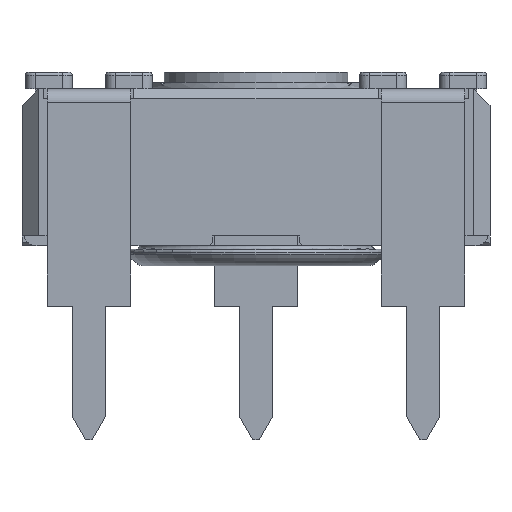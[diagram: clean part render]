
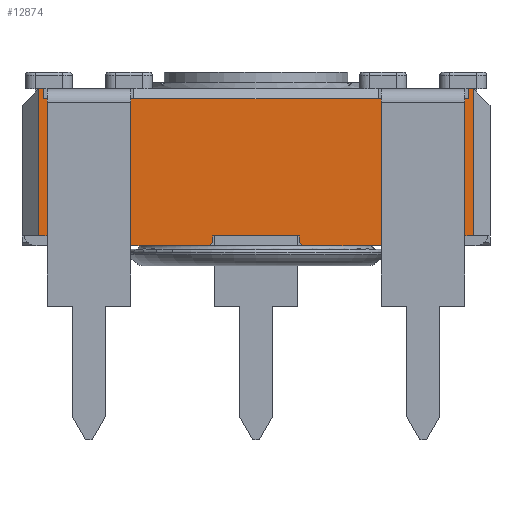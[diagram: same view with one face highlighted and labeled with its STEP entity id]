
A CAD part, front view. The second image highlights one B-rep face of the part: STEP entity #12874.
In plain terms, the highlighted planar face has unit normal (0, -1, 0).
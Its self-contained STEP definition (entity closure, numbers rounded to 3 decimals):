
#415=PLANE('',#13733);
#1009=FACE_OUTER_BOUND('',#1683,.T.);
#1683=EDGE_LOOP('',(#10426,#10427,#10428,#10429,#10430,#10431,#10432,#10433,
#10434,#10435,#10436,#10437,#10438,#10439,#10440,#10441,#10442,#10443,#10444,
#10445,#10446,#10447,#10448,#10449,#10450));
#2171=LINE('',#18132,#3656);
#2179=LINE('',#18152,#3664);
#2203=LINE('',#18199,#3688);
#2204=LINE('',#18201,#3689);
#2209=LINE('',#18212,#3694);
#2233=LINE('',#18259,#3718);
#2421=LINE('',#18814,#3906);
#2434=LINE('',#18838,#3919);
#2584=LINE('',#19393,#4069);
#2789=LINE('',#19916,#4274);
#2794=LINE('',#19926,#4279);
#2799=LINE('',#19936,#4284);
#2814=LINE('',#19962,#4299);
#2922=LINE('',#20280,#4407);
#2930=LINE('',#20298,#4415);
#2936=LINE('',#20306,#4421);
#2937=LINE('',#20309,#4422);
#2938=LINE('',#20311,#4423);
#2939=LINE('',#20313,#4424);
#2940=LINE('',#20314,#4425);
#2941=LINE('',#20315,#4426);
#2942=LINE('',#20316,#4427);
#2943=LINE('',#20317,#4428);
#2944=LINE('',#20318,#4429);
#2945=LINE('',#20319,#4430);
#3656=VECTOR('',#14515,10.);
#3664=VECTOR('',#14537,10.);
#3688=VECTOR('',#14563,10.);
#3689=VECTOR('',#14566,10.);
#3694=VECTOR('',#14581,10.);
#3718=VECTOR('',#14607,10.);
#3906=VECTOR('',#15169,10.);
#3919=VECTOR('',#15196,10.);
#4069=VECTOR('',#15574,10.);
#4274=VECTOR('',#15921,10.);
#4279=VECTOR('',#15926,10.);
#4284=VECTOR('',#15931,10.);
#4299=VECTOR('',#15948,10.);
#4407=VECTOR('',#16204,10.);
#4415=VECTOR('',#16216,10.);
#4421=VECTOR('',#16226,10.);
#4422=VECTOR('',#16229,10.);
#4423=VECTOR('',#16230,10.);
#4424=VECTOR('',#16231,10.);
#4425=VECTOR('',#16232,10.);
#4426=VECTOR('',#16233,10.);
#4427=VECTOR('',#16234,10.);
#4428=VECTOR('',#16235,10.);
#4429=VECTOR('',#16236,10.);
#4430=VECTOR('',#16237,10.);
#5380=VERTEX_POINT('',#17985);
#5386=VERTEX_POINT('',#18002);
#5396=VERTEX_POINT('',#18024);
#5444=VERTEX_POINT('',#18131);
#5449=VERTEX_POINT('',#18151);
#5471=VERTEX_POINT('',#18197);
#5472=VERTEX_POINT('',#18211);
#5494=VERTEX_POINT('',#18257);
#5673=VERTEX_POINT('',#18811);
#5674=VERTEX_POINT('',#18813);
#5677=VERTEX_POINT('',#18835);
#5678=VERTEX_POINT('',#18837);
#5812=VERTEX_POINT('',#19389);
#5964=VERTEX_POINT('',#19915);
#5968=VERTEX_POINT('',#19923);
#5969=VERTEX_POINT('',#19925);
#5973=VERTEX_POINT('',#19933);
#5974=VERTEX_POINT('',#19935);
#6051=VERTEX_POINT('',#20278);
#6052=VERTEX_POINT('',#20279);
#6059=VERTEX_POINT('',#20296);
#6060=VERTEX_POINT('',#20297);
#6061=VERTEX_POINT('',#20308);
#6062=VERTEX_POINT('',#20310);
#6063=VERTEX_POINT('',#20312);
#6696=EDGE_CURVE('',#5444,#5380,#2171,.T.);
#6706=EDGE_CURVE('',#5449,#5444,#2179,.T.);
#6730=EDGE_CURVE('',#5380,#5471,#2203,.T.);
#6731=EDGE_CURVE('',#5386,#5396,#2204,.T.);
#6736=EDGE_CURVE('',#5472,#5386,#2209,.T.);
#6760=EDGE_CURVE('',#5396,#5494,#2233,.T.);
#7039=EDGE_CURVE('',#5674,#5673,#2421,.T.);
#7052=EDGE_CURVE('',#5678,#5677,#2434,.T.);
#7262=EDGE_CURVE('',#5678,#5812,#2584,.T.);
#7488=EDGE_CURVE('',#5964,#5812,#2789,.T.);
#7493=EDGE_CURVE('',#5969,#5968,#2794,.T.);
#7498=EDGE_CURVE('',#5974,#5973,#2799,.T.);
#7513=EDGE_CURVE('',#5974,#5673,#2814,.T.);
#7640=EDGE_CURVE('',#6051,#6052,#2922,.T.);
#7648=EDGE_CURVE('',#6059,#6060,#2930,.T.);
#7654=EDGE_CURVE('',#5969,#6051,#2936,.T.);
#7655=EDGE_CURVE('',#5968,#6061,#2937,.T.);
#7656=EDGE_CURVE('',#6062,#6061,#2938,.T.);
#7657=EDGE_CURVE('',#6062,#6063,#2939,.T.);
#7658=EDGE_CURVE('',#6063,#5964,#2940,.T.);
#7659=EDGE_CURVE('',#5677,#5472,#2941,.T.);
#7660=EDGE_CURVE('',#5449,#5494,#2942,.T.);
#7661=EDGE_CURVE('',#5471,#5674,#2943,.T.);
#7662=EDGE_CURVE('',#5973,#6060,#2944,.T.);
#7663=EDGE_CURVE('',#6059,#6052,#2945,.T.);
#10426=ORIENTED_EDGE('',*,*,#7640,.F.);
#10427=ORIENTED_EDGE('',*,*,#7654,.F.);
#10428=ORIENTED_EDGE('',*,*,#7493,.T.);
#10429=ORIENTED_EDGE('',*,*,#7655,.T.);
#10430=ORIENTED_EDGE('',*,*,#7656,.F.);
#10431=ORIENTED_EDGE('',*,*,#7657,.T.);
#10432=ORIENTED_EDGE('',*,*,#7658,.T.);
#10433=ORIENTED_EDGE('',*,*,#7488,.T.);
#10434=ORIENTED_EDGE('',*,*,#7262,.F.);
#10435=ORIENTED_EDGE('',*,*,#7052,.T.);
#10436=ORIENTED_EDGE('',*,*,#7659,.T.);
#10437=ORIENTED_EDGE('',*,*,#6736,.T.);
#10438=ORIENTED_EDGE('',*,*,#6731,.T.);
#10439=ORIENTED_EDGE('',*,*,#6760,.T.);
#10440=ORIENTED_EDGE('',*,*,#7660,.F.);
#10441=ORIENTED_EDGE('',*,*,#6706,.T.);
#10442=ORIENTED_EDGE('',*,*,#6696,.T.);
#10443=ORIENTED_EDGE('',*,*,#6730,.T.);
#10444=ORIENTED_EDGE('',*,*,#7661,.T.);
#10445=ORIENTED_EDGE('',*,*,#7039,.T.);
#10446=ORIENTED_EDGE('',*,*,#7513,.F.);
#10447=ORIENTED_EDGE('',*,*,#7498,.T.);
#10448=ORIENTED_EDGE('',*,*,#7662,.T.);
#10449=ORIENTED_EDGE('',*,*,#7648,.F.);
#10450=ORIENTED_EDGE('',*,*,#7663,.T.);
#12874=ADVANCED_FACE('',(#1009),#415,.T.);
#13733=AXIS2_PLACEMENT_3D('',#20307,#16227,#16228);
#14515=DIRECTION('',(-1.,0.,0.));
#14537=DIRECTION('',(-1.,0.,0.));
#14563=DIRECTION('',(-1.,0.,0.));
#14566=DIRECTION('',(-1.,0.,0.));
#14581=DIRECTION('',(-1.,0.,0.));
#14607=DIRECTION('',(-1.,0.,0.));
#15169=DIRECTION('',(-1.,0.,0.));
#15196=DIRECTION('',(-1.,0.,0.));
#15574=DIRECTION('',(0.,0.,-1.));
#15921=DIRECTION('',(1.,0.,0.));
#15926=DIRECTION('',(1.,0.,0.));
#15931=DIRECTION('',(1.,0.,0.));
#15948=DIRECTION('',(0.,0.,1.));
#16204=DIRECTION('',(-0.707,0.,-0.707));
#16216=DIRECTION('',(-0.707,0.,0.707));
#16226=DIRECTION('',(0.,0.,-1.));
#16227=DIRECTION('center_axis',(0.,-1.,0.));
#16228=DIRECTION('ref_axis',(0.,0.,-1.));
#16229=DIRECTION('',(0.,0.,-1.));
#16230=DIRECTION('',(-0.707,0.,0.707));
#16231=DIRECTION('',(1.,0.,0.));
#16232=DIRECTION('',(0.,0.,1.));
#16233=DIRECTION('',(0.,0.,-1.));
#16234=DIRECTION('',(1.,0.,0.));
#16235=DIRECTION('',(0.,0.,1.));
#16236=DIRECTION('',(0.,0.,-1.));
#16237=DIRECTION('',(1.,0.,0.));
#17985=CARTESIAN_POINT('',(-13.717,-9.898,4.1));
#18002=CARTESIAN_POINT('',(-1.217,-9.898,4.1));
#18024=CARTESIAN_POINT('',(-3.717,-9.898,4.1));
#18131=CARTESIAN_POINT('',(-11.217,-9.898,4.1));
#18132=CARTESIAN_POINT('',(-3.944,-9.898,4.1));
#18151=CARTESIAN_POINT('',(-11.117,-9.898,4.1));
#18152=CARTESIAN_POINT('',(-3.944,-9.898,4.1));
#18197=CARTESIAN_POINT('',(-13.817,-9.898,4.1));
#18199=CARTESIAN_POINT('',(-3.944,-9.898,4.1));
#18201=CARTESIAN_POINT('',(-1.862,-9.898,4.1));
#18211=CARTESIAN_POINT('',(-1.117,-9.898,4.1));
#18212=CARTESIAN_POINT('',(-1.862,-9.898,4.1));
#18257=CARTESIAN_POINT('',(-3.817,-9.898,4.1));
#18259=CARTESIAN_POINT('',(-1.862,-9.898,4.1));
#18811=CARTESIAN_POINT('',(-13.967,-9.898,4.4));
#18813=CARTESIAN_POINT('',(-13.817,-9.898,4.4));
#18814=CARTESIAN_POINT('',(-14.467,-9.898,4.4));
#18835=CARTESIAN_POINT('',(-1.117,-9.898,4.4));
#18837=CARTESIAN_POINT('',(-0.967,-9.898,4.4));
#18838=CARTESIAN_POINT('',(-14.467,-9.898,4.4));
#19389=CARTESIAN_POINT('',(-0.967,-9.898,0.));
#19393=CARTESIAN_POINT('',(-0.967,-9.898,0.));
#19915=CARTESIAN_POINT('',(-1.467,-9.898,0.));
#19916=CARTESIAN_POINT('',(-0.646,-9.898,0.));
#19923=CARTESIAN_POINT('',(-6.167,-9.898,0.));
#19925=CARTESIAN_POINT('',(-8.767,-9.898,0.));
#19926=CARTESIAN_POINT('',(-14.467,-9.898,0.));
#19933=CARTESIAN_POINT('',(-13.467,-9.898,0.));
#19935=CARTESIAN_POINT('',(-13.967,-9.898,0.));
#19936=CARTESIAN_POINT('',(-7.245,-9.898,0.));
#19962=CARTESIAN_POINT('',(-13.967,-9.898,0.));
#20278=CARTESIAN_POINT('',(-8.767,-9.898,-0.2));
#20279=CARTESIAN_POINT('',(-8.867,-9.898,-0.3));
#20280=CARTESIAN_POINT('',(-6.667,-9.898,1.9));
#20296=CARTESIAN_POINT('',(-13.367,-9.898,-0.3));
#20297=CARTESIAN_POINT('',(-13.467,-9.898,-0.2));
#20298=CARTESIAN_POINT('',(-10.242,-9.898,-3.425));
#20306=CARTESIAN_POINT('',(-8.767,-9.898,0.));
#20307=CARTESIAN_POINT('Origin',(-0.467,-9.898,0.));
#20308=CARTESIAN_POINT('',(-6.167,-9.898,-0.2));
#20309=CARTESIAN_POINT('',(-6.167,-9.898,0.));
#20310=CARTESIAN_POINT('',(-6.067,-9.898,-0.3));
#20311=CARTESIAN_POINT('',(-4.767,-9.898,-1.6));
#20312=CARTESIAN_POINT('',(-1.467,-9.898,-0.3));
#20313=CARTESIAN_POINT('',(-0.467,-9.898,-0.3));
#20314=CARTESIAN_POINT('',(-1.467,-9.898,-0.15));
#20315=CARTESIAN_POINT('',(-1.117,-9.898,2.2));
#20316=CARTESIAN_POINT('',(-3.967,-9.898,4.1));
#20317=CARTESIAN_POINT('',(-13.817,-9.898,2.2));
#20318=CARTESIAN_POINT('',(-13.467,-9.898,-0.15));
#20319=CARTESIAN_POINT('',(-0.467,-9.898,-0.3));
